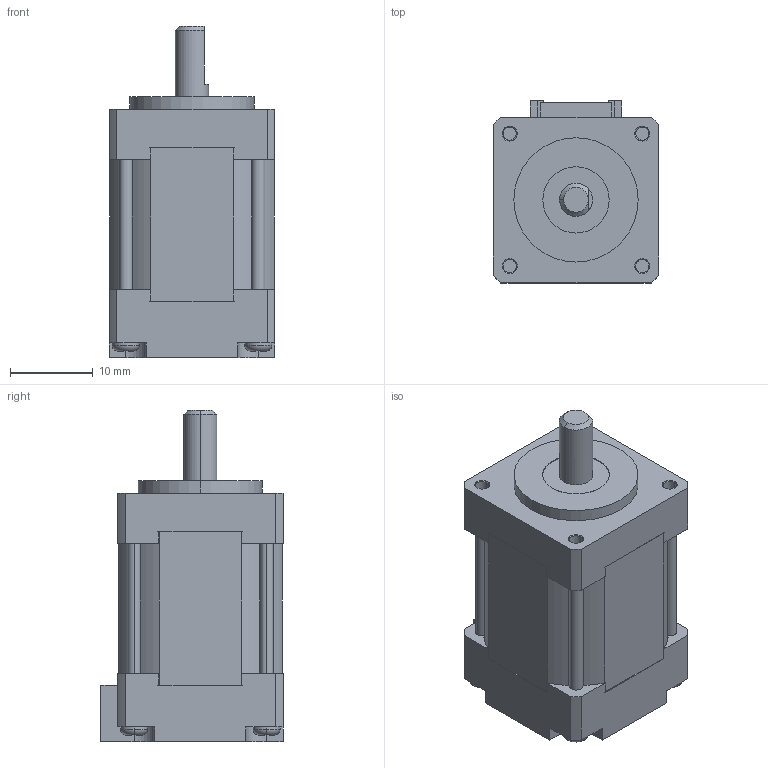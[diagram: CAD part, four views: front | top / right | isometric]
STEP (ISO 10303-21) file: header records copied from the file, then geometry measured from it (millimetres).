
FILE_DESCRIPTION (( 'STEP AP214' ), '1' );
FILE_NAME ('TS3692N41.STEP', '2011-09-15T08:55:24', ( '' ), ( '' ), 'SwSTEP 2.0', 'SolidWorks 2010', '' );
FILE_SCHEMA (( 'AUTOMOTIVE_DESIGN' ));
Length unit declared in the file: millimetre
Products named in the file (1): TS3692N41
Bounding box: 20 x 22 x 40 mm (x, y, z)
Volume: 11594.9 mm3; surface area: 3994 mm2
Topology: 1 solids, 1 shells, 226 faces, 630 edges, 412 vertices
Faces by surface type: plane 112, cylinder 94, cone 12, torus 8
Entity records: 7838 total; most frequent: CARTESIAN_POINT 1443, DIRECTION 1296, ORIENTED_EDGE 1260, EDGE_CURVE 630, AXIS2_PLACEMENT_3D 473, VERTEX_POINT 412, LINE 350, VECTOR 350
